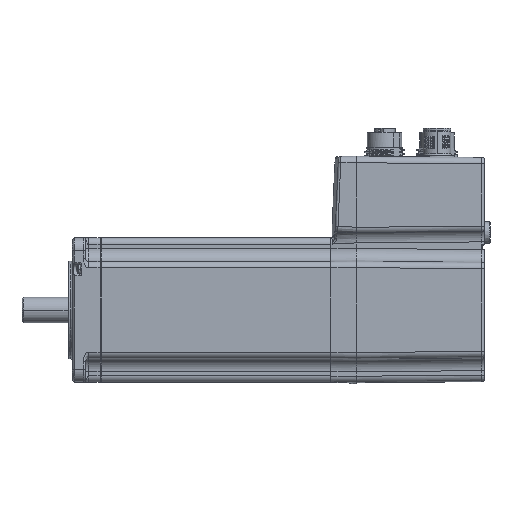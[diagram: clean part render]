
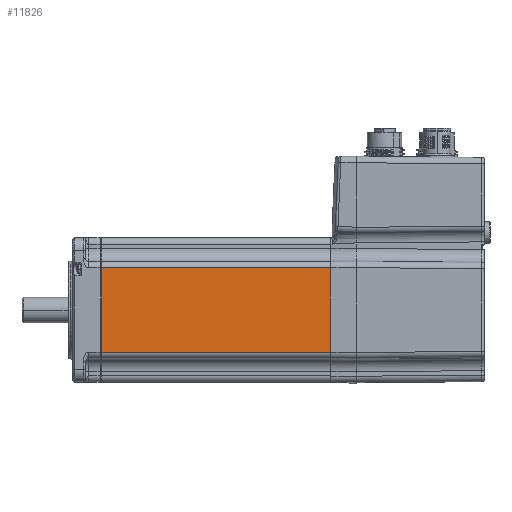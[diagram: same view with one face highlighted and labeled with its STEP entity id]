
A CAD part, top view. The second image highlights one B-rep face of the part: STEP entity #11826.
In plain terms, the highlighted planar face has unit normal (0, 0, 1) as drawn and (1, 0, 0) by its records, which use the part's own axes.
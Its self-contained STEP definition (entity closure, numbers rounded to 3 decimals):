
#10485=DIRECTION('',(0.,0.,-1.));
#10486=VECTOR('',#10485,89.6);
#10487=CARTESIAN_POINT('',(56.2,-11.5,31.8));
#10488=LINE('',#10487,#10486);
#10492=DIRECTION('',(0.,-1.,0.));
#10493=VECTOR('',#10492,33.);
#10494=CARTESIAN_POINT('',(56.2,-11.5,31.8));
#10495=LINE('',#10494,#10493);
#10499=DIRECTION('',(0.,-1.,0.));
#10500=VECTOR('',#10499,33.);
#10501=CARTESIAN_POINT('',(56.2,-11.5,-57.8));
#10502=LINE('',#10501,#10500);
#10530=DIRECTION('',(0.,0.,1.));
#10531=VECTOR('',#10530,89.6);
#10532=CARTESIAN_POINT('',(56.2,-44.5,-57.8));
#10533=LINE('',#10532,#10531);
#10894=CARTESIAN_POINT('',(56.2,-11.5,31.8));
#10895=VERTEX_POINT('',#10894);
#10898=CARTESIAN_POINT('',(56.2,-44.5,31.8));
#10899=VERTEX_POINT('',#10898);
#10992=CARTESIAN_POINT('',(56.2,-11.5,-57.8));
#10993=VERTEX_POINT('',#10992);
#10996=CARTESIAN_POINT('',(56.2,-44.5,-57.8));
#10997=VERTEX_POINT('',#10996);
#11813=CARTESIAN_POINT('',(56.2,-44.5,111.762));
#11814=DIRECTION('',(-1.,0.,0.));
#11815=DIRECTION('',(0.,0.,1.));
#11816=AXIS2_PLACEMENT_3D('',#11813,#11814,#11815);
#11817=PLANE('',#11816);
#11819=ORIENTED_EDGE('',*,*,#11818,.F.);
#11820=ORIENTED_EDGE('',*,*,#11808,.T.);
#11821=ORIENTED_EDGE('',*,*,#11275,.T.);
#11823=ORIENTED_EDGE('',*,*,#11822,.T.);
#11824=EDGE_LOOP('',(#11819,#11820,#11821,#11823));
#11825=FACE_OUTER_BOUND('',#11824,.F.);
#11275=EDGE_CURVE('',#10993,#10997,#10502,.T.);
#11808=EDGE_CURVE('',#10895,#10993,#10488,.T.);
#11818=EDGE_CURVE('',#10895,#10899,#10495,.T.);
#11822=EDGE_CURVE('',#10997,#10899,#10533,.T.);
#11826=ADVANCED_FACE('',(#11825),#11817,.F.);
